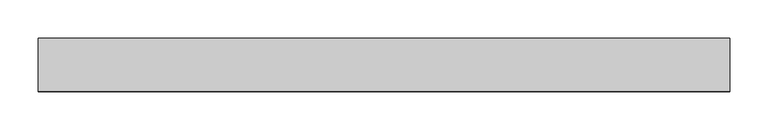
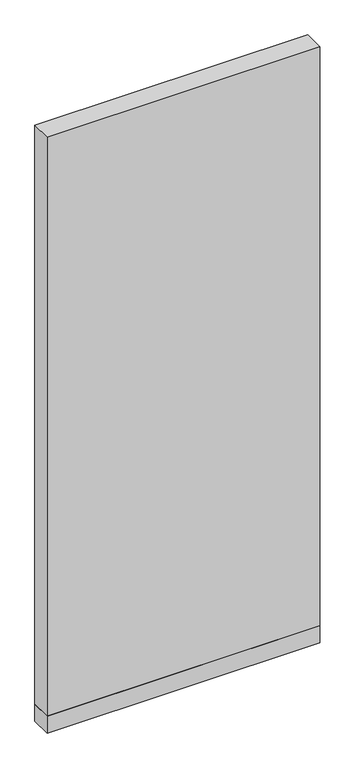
"""IFC4 building model written with IfcOpenShell, lengths in millimetres: plate geometry, 営_パーティションパネル_下部 : パーティションパネル_下部."""

from ifc_helpers import new_model, si_unit, frame, origin, origin_with_axes, place, context, project, spatial, polyline, outline, extrude, source, transform, mapped, element, save


def plate_dcb82f18(model_context):
    return source(origin(), model_context, "Body", "SweptSolid", [
        extrude(outline(polyline([(-455.0, -35.0), (-455.0, 35.0), (455.0, 35.0), (455.0, -35.0), (-455.0, -35.0)])), origin_with_axes(), (0.0, 0.0, 1.0), 60.0),
        extrude(outline(polyline([(-455.0, -35.0), (-455.0, 35.0), (455.0, 35.0), (455.0, -35.0), (-455.0, -35.0)])), frame((0.0, 0.0, 60.0), z_axis=(0.0, 0.0, 1.0), x_axis=(1.0, 0.0, 0.0)), (0.0, 0.0, 1.0), 2040.0),
    ])


if __name__ == "__main__":
    model = new_model("IFC4")
    model_context = context("Model", 3, world=origin())
    ifc_project = project(units=[si_unit("LENGTHUNIT", "METRE", prefix="MILLI")], contexts=[model_context])
    site = spatial("IfcSite", under=ifc_project)
    building = spatial("IfcBuilding", under=site)
    placement = place(None, origin())
    plate_shape = plate_dcb82f18(model_context)
    element("IfcPlate", 1, ObjectType="営_パーティションパネル_下部 : パーティションパネル_下部", at=placement, inside=building, context=model_context, shape_type="MappedRepresentation", body=[
        mapped(plate_shape, transform((0.0, 0.0, 0.0), x_axis=(1.0, 0.0, 0.0), y_axis=(0.0, 1.0, 0.0), z_axis=(0.0, 0.0, 1.0))),
    ])
    save(model, "model.ifc")
